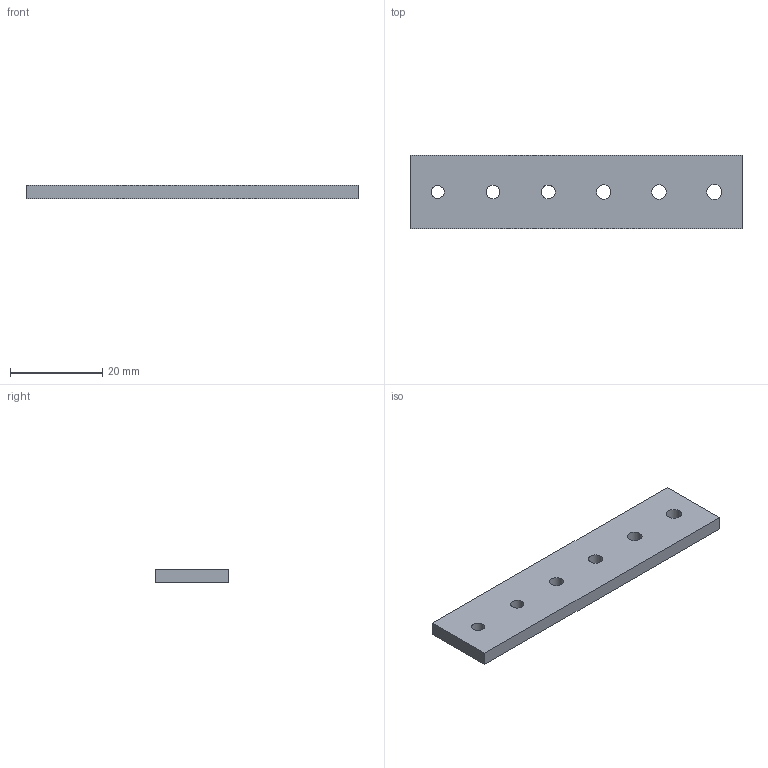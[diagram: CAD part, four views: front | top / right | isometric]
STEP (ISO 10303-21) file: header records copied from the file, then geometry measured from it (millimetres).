
FILE_DESCRIPTION(('FreeCAD Model'),'2;1');
FILE_NAME('Open CASCADE Shape Model','2026-09-11T23:32:08',('FreeCAD'),( 'FreeCAD'),'Open CASCADE STEP processor 7.8','FreeCAD','Unknown');
FILE_SCHEMA(('AUTOMOTIVE_DESIGN { 1 0 10303 214 1 1 1 1 }'));
Length unit declared in the file: millimetre
Products named in the file (1): Open CASCADE STEP translator 7.8 19
Bounding box: 72 x 16 x 3 mm (x, y, z)
Volume: 3324.1 mm3; surface area: 2916.5 mm2
Topology: 1 solids, 1 shells, 12 faces, 30 edges, 20 vertices
Faces by surface type: plane 6, cylinder 6
Full cylindrical faces by diameter (mm): 2.8 x1, 2.9 x1, 3 x1, 3.1 x1, 3.2 x1, 3.3 x1
Entity records: 400 total; most frequent: DIRECTION 68, CARTESIAN_POINT 63, ORIENTED_EDGE 60, EDGE_CURVE 30, AXIS2_PLACEMENT_3D 25, FACE_BOUND 24, EDGE_LOOP 24, VERTEX_POINT 20
